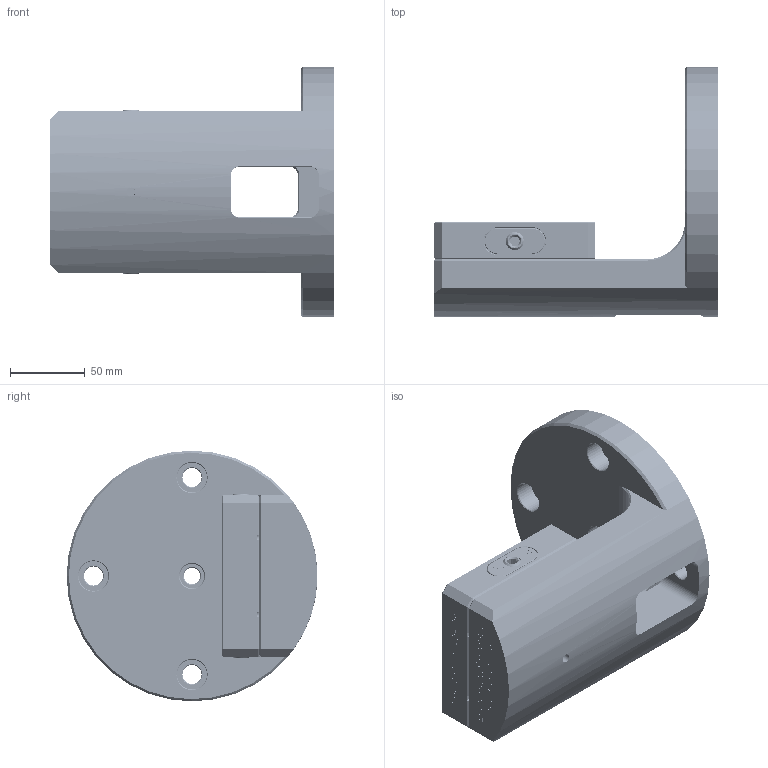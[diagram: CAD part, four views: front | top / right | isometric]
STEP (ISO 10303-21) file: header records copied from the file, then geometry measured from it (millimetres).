
FILE_DESCRIPTION((''),'2;1');
FILE_NAME('L170_NEW_VISE_ASM','2025-05-30T09:15:45',('XF'),(''),'CREO PARAMETRIC BY PTC INC, 2023073','CREO PARAMETRIC BY PTC INC, 2023073','');
FILE_SCHEMA(('CONFIG_CONTROL_DESIGN'));
Products named in the file (10): QB-L170_55; TS52-SS_2_1_1; TS52-SS_2_2_1; TS52-SS_2_3_1; TS52-SS_2_4_1; TS52-SS_2_5_1; TS52-SS_2_ASM_1_ASM; TS52-108_ASM_1_ASM; L170_NEW_ASM_1_ASM; L170_NEW_VISE_ASM
Assembly tree (9 placements, depth 5):
  L170_NEW_VISE_ASM
    L170_NEW_ASM_1_ASM
      QB-L170_55
      TS52-108_ASM_1_ASM
        TS52-SS_2_ASM_1_ASM
          TS52-SS_2_1_1
          TS52-SS_2_2_1
          TS52-SS_2_3_1
          TS52-SS_2_4_1
          TS52-SS_2_5_1
Bounding box: 190 x 168 x 168 mm (x, y, z)
Volume: 1225911.9 mm3; surface area: 166729.5 mm2
Topology: 6 solids, 18 shells, 4131 faces, 10375 edges, 6748 vertices
Faces by surface type: plane 1647, cone 1295, extrusion 785, cylinder 316, bspline 48, torus 40
Entity records: 138414 total; most frequent: CARTESIAN_POINT 40473, ORIENTED_EDGE 20654, DIRECTION 18657, EDGE_CURVE 10351, VERTEX_POINT 6748, VECTOR 6489, AXIS2_PLACEMENT_3D 6084, LINE 5704
